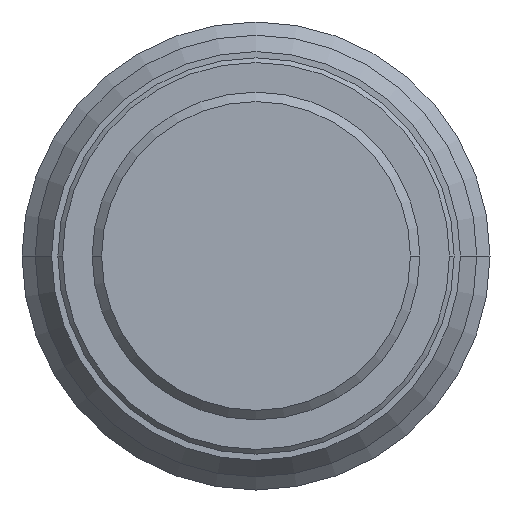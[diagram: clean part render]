
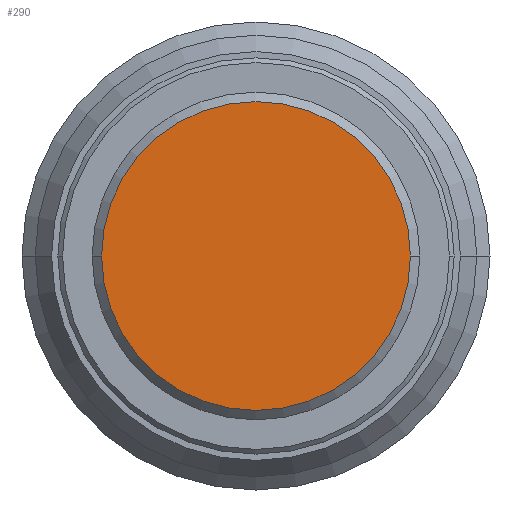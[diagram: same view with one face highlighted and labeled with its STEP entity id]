
A CAD part, front view. The second image highlights one B-rep face of the part: STEP entity #290.
In plain terms, the highlighted planar face has unit normal (0, -1, 0) as drawn and (1, 0, 0) by its records, which use the part's own axes.
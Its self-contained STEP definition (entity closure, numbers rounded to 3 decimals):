
#130=PLANE('',#1668);
#290=ADVANCED_FACE('',(#400),#130,.T.);
#400=FACE_OUTER_BOUND('',#497,.T.);
#497=EDGE_LOOP('',(#1050,#1051));
#1050=ORIENTED_EDGE('',*,*,#1388,.T.);
#1051=ORIENTED_EDGE('',*,*,#1285,.T.);
#1121=VERTEX_POINT('',#2360);
#1122=VERTEX_POINT('',#2361);
#1285=EDGE_CURVE('',#1121,#1122,#1445,.T.);
#1388=EDGE_CURVE('',#1122,#1121,#1484,.T.);
#1445=CIRCLE('',#1587,9.9);
#1484=CIRCLE('',#1667,9.9);
#1587=AXIS2_PLACEMENT_3D('',#2359,#1912,#1913);
#1667=AXIS2_PLACEMENT_3D('',#2637,#2116,#2117);
#1668=AXIS2_PLACEMENT_3D('',#2638,#2118,#2119);
#1912=DIRECTION('',(1.,0.,0.));
#1913=DIRECTION('',(0.,0.,-1.));
#2116=DIRECTION('',(1.,0.,0.));
#2117=DIRECTION('',(0.,0.,-1.));
#2118=DIRECTION('',(1.,0.,0.));
#2119=DIRECTION('',(0.,0.,1.));
#2359=CARTESIAN_POINT('',(65.,0.,0.));
#2360=CARTESIAN_POINT('',(65.,0.,-9.9));
#2361=CARTESIAN_POINT('',(65.,0.,9.9));
#2637=CARTESIAN_POINT('',(65.,0.,0.));
#2638=CARTESIAN_POINT('',(65.,0.,0.));
